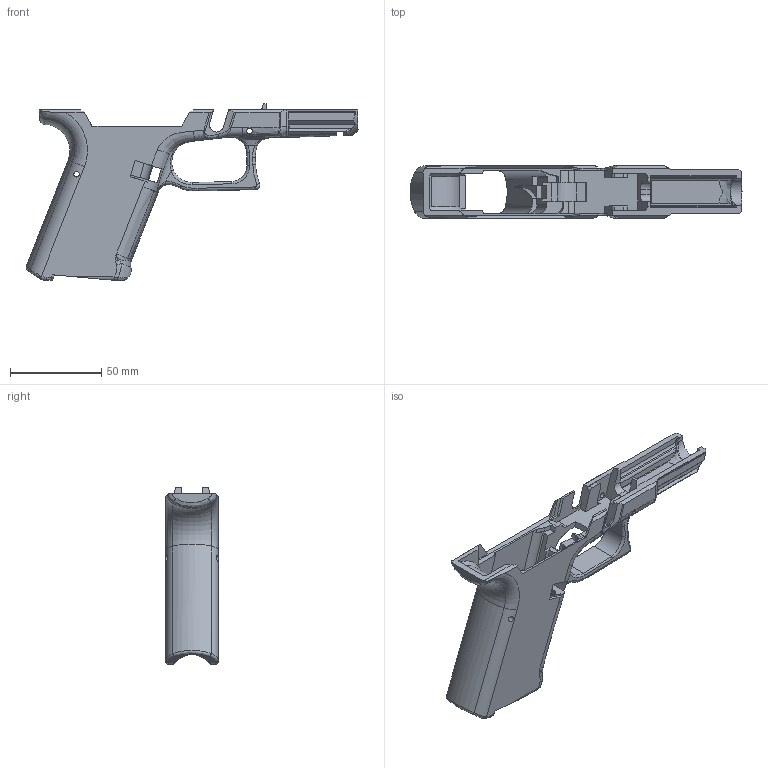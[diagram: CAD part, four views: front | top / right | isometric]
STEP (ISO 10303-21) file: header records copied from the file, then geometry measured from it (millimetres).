
FILE_DESCRIPTION(/* description */ ('','CAx-IF Rec.Pracs.---Representation and Presentation of Product Manufacturing Information (PMI)---4.0---2014-10-13'),/* implementation_level */ '2;1');
FILE_NAME(/* name */ '120G Compact - Standard.step',/* time_stamp */ '2025-01-11T18:31:06-06:00',/* author */ (''),/* organization */ (''),/* preprocessor_version */ 'ST-DEVELOPER v20',/* originating_system */ 'Autodesk Translation Framework v13.20.0.188',/* authorisation */ '');
FILE_SCHEMA (('AP242_MANAGED_MODEL_BASED_3D_ENGINEERING_MIM_LF { 1 0 10303 442 1 1 4 }'));
Length unit declared in the file: millimetre
Products named in the file (3): 120G Compact; 120G Compact - Standard; X9-C (G19) RC1
Assembly tree (2 placements, depth 3):
  120G Compact
    120G Compact - Standard
      X9-C (G19) RC1
Bounding box: 182.13 x 28.8 x 97.03 mm (x, y, z)
Volume: 71814.6 mm3; surface area: 38733.7 mm2
Topology: 1 solids, 1 shells, 526 faces, 1632 edges, 1084 vertices
Faces by surface type: bspline 206, plane 181, cylinder 110, torus 16, cone 11, sphere 2
Full cylindrical faces by diameter (mm): 1.321 x1, 3 x4
Entity records: 41647 total; most frequent: CARTESIAN_POINT 28522, ORIENTED_EDGE 3236, DIRECTION 2130, EDGE_CURVE 1618, VERTEX_POINT 1085, AXIS2_PLACEMENT_3D 758, LINE 614, VECTOR 614
